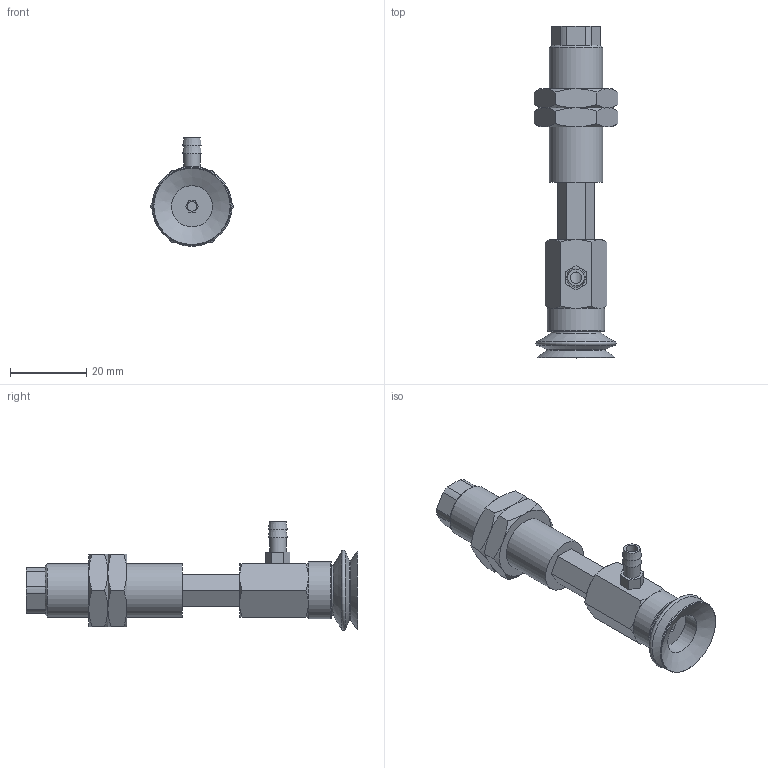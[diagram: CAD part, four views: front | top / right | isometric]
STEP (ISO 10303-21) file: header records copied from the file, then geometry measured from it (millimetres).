
FILE_DESCRIPTION(('STEP AP203'),'1');
FILE_NAME('-T.stp','2025-04-24T06:59:33',(' '),(' '),'Spatial InterOp 3D',' ',' ');
FILE_SCHEMA(('CONFIG_CONTROL_DESIGN'));
Length unit declared in the file: millimetre
Products named in the file (8): BNABPJYH-20-15-※-T; Adapter-20-NAPJ; CONNECTOR_H-20-15; NAPJH-20-15-NUT; NAPJTH-20-15-FBODY; NAPJTH-20-15-MBODY; BPJG-20-※; T
Assembly tree (8 placements, depth 2):
  BNABPJYH-20-15-※-T
    Adapter-20-NAPJ
    CONNECTOR_H-20-15
    NAPJH-20-15-NUT  x2
    NAPJTH-20-15-FBODY
    NAPJTH-20-15-MBODY
    BPJG-20-※
    T
Bounding box: 21.94 x 87 x 28.5 mm (x, y, z)
Volume: 13388.4 mm3; surface area: 11029.7 mm2
Topology: 8 solids, 8 shells, 171 faces, 375 edges, 232 vertices
Faces by surface type: plane 84, cone 57, cylinder 23, torus 7
Full cylindrical faces by diameter (mm): 2.5 x1, 3 x2, 4.134 x3, 4.3 x1, 4.6 x1, 5 x3, 10.8 x1, 11 x1, 13.188 x2, 14 x1, 15 x1
Entity records: 4464 total; most frequent: CARTESIAN_POINT 999, DIRECTION 640, ORIENTED_EDGE 558, EDGE_CURVE 279, AXIS2_PLACEMENT_3D 256, EDGE_LOOP 214, VERTEX_POINT 197, FACE_OUTER_BOUND 171
